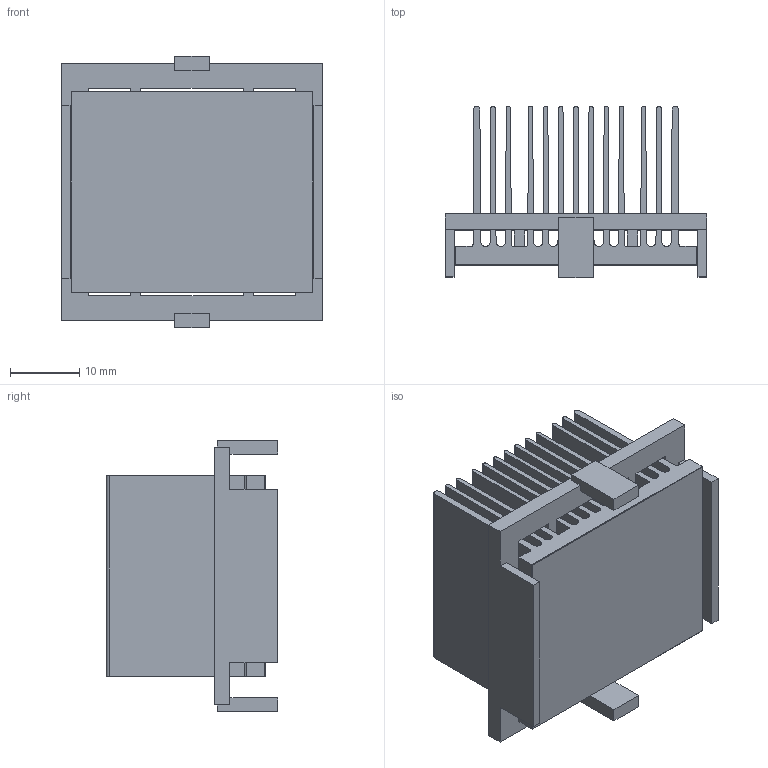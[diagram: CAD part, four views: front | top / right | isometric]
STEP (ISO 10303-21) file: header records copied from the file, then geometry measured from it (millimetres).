
FILE_DESCRIPTION (( 'STEP AP214' ), '1' );
FILE_NAME ('INH35001-23-2.6BU.STEP', '2023-02-17T22:49:09', ( '' ), ( '' ), 'SwSTEP 2.0', 'SolidWorks 2020', '' );
FILE_SCHEMA (( 'AUTOMOTIVE_DESIGN' ));
Length unit declared in the file: millimetre
Products named in the file (1): INH35001-23-2.6BU
Bounding box: 37.7 x 24.76 x 39.2 mm (x, y, z)
Volume: 10491.2 mm3; surface area: 22485 mm2
Topology: 3 solids, 3 shells, 144 faces, 414 edges, 276 vertices
Faces by surface type: plane 105, cylinder 39
Entity records: 6336 total; most frequent: CARTESIAN_POINT 835, ORIENTED_EDGE 828, DIRECTION 782, EDGE_CURVE 414, VECTOR 336, LINE 336, VERTEX_POINT 276, AXIS2_PLACEMENT_3D 223
